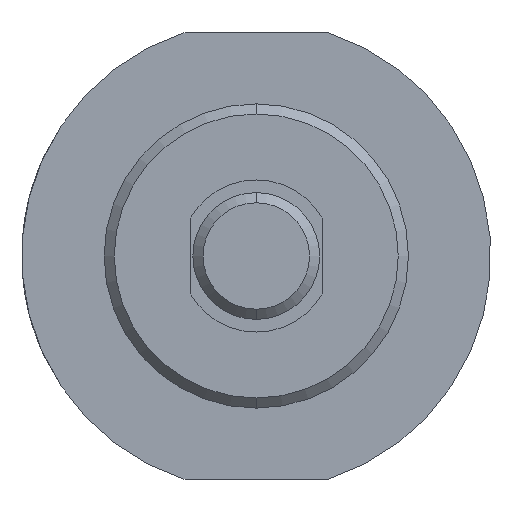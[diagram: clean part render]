
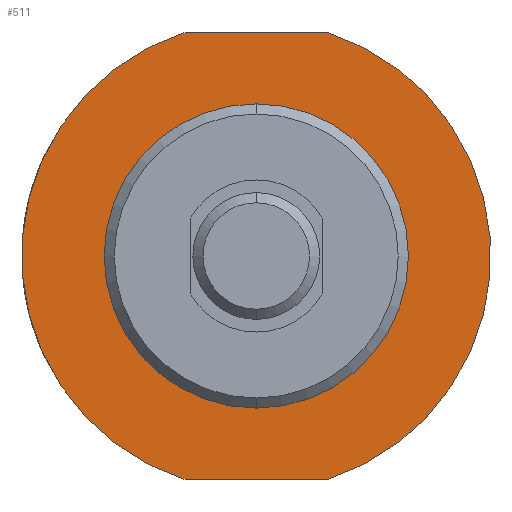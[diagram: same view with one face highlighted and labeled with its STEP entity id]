
A CAD part, left-side view. The second image highlights one B-rep face of the part: STEP entity #511.
In plain terms, the highlighted planar face has unit normal (-1, 0, 0).
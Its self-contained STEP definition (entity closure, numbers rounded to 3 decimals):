
#13 = CARTESIAN_POINT ( 'NONE',  ( 28., 6., 0. ) ) ;
#54 = ORIENTED_EDGE ( 'NONE', *, *, #574, .F. ) ;
#115 = DIRECTION ( 'NONE',  ( 0., 0., 1. ) ) ;
#133 = AXIS2_PLACEMENT_3D ( 'NONE', #13, #380, #1435 ) ;
#169 = ORIENTED_EDGE ( 'NONE', *, *, #1055, .F. ) ;
#180 = FACE_OUTER_BOUND ( 'NONE', #252, .T. ) ;
#243 = AXIS2_PLACEMENT_3D ( 'NONE', #1244, #977, #115 ) ;
#252 = EDGE_LOOP ( 'NONE', ( #655, #1450, #1391, #54 ) ) ;
#256 = CARTESIAN_POINT ( 'NONE',  ( 28., 0., 0. ) ) ;
#290 = DIRECTION ( 'NONE',  ( 0., 0., 1. ) ) ;
#319 = CARTESIAN_POINT ( 'NONE',  ( 28., -2.85, -8.8 ) ) ;
#356 = EDGE_CURVE ( 'NONE', #1226, #1364, #869, .T. ) ;
#380 = DIRECTION ( 'NONE',  ( 1., 0., 0. ) ) ;
#404 = CARTESIAN_POINT ( 'NONE',  ( 28., 2.85, -8.8 ) ) ;
#407 = CARTESIAN_POINT ( 'NONE',  ( 28., 2.85, -8.8 ) ) ;
#409 = ORIENTED_EDGE ( 'NONE', *, *, #759, .F. ) ;
#453 = CARTESIAN_POINT ( 'NONE',  ( 28., -2.85, 8.8 ) ) ;
#460 = DIRECTION ( 'NONE',  ( 0., 0., 1. ) ) ;
#511 = ADVANCED_FACE ( 'NONE', ( #1571, #180 ), #1236, .F. ) ;
#571 = LINE ( 'NONE', #404, #1128 ) ;
#574 = EDGE_CURVE ( 'NONE', #1243, #1422, #571, .T. ) ;
#581 = VERTEX_POINT ( 'NONE', #622 ) ;
#622 = CARTESIAN_POINT ( 'NONE',  ( 28., 0., -6. ) ) ;
#655 = ORIENTED_EDGE ( 'NONE', *, *, #1535, .T. ) ;
#759 = EDGE_CURVE ( 'NONE', #1115, #581, #1306, .T. ) ;
#778 = CIRCLE ( 'NONE', #1151, 6. ) ;
#813 = EDGE_CURVE ( 'NONE', #1226, #1422, #1577, .T. ) ;
#853 = VECTOR ( 'NONE', #1406, 1000. ) ;
#867 = DIRECTION ( 'NONE',  ( 0., 0., 1. ) ) ;
#869 = LINE ( 'NONE', #870, #853 ) ;
#870 = CARTESIAN_POINT ( 'NONE',  ( 28., 2.85, 8.8 ) ) ;
#977 = DIRECTION ( 'NONE',  ( -1., 0., 0. ) ) ;
#1053 = CARTESIAN_POINT ( 'NONE',  ( 28., 0., 0. ) ) ;
#1055 = EDGE_CURVE ( 'NONE', #581, #1115, #778, .T. ) ;
#1064 = CIRCLE ( 'NONE', #1181, 9.25 ) ;
#1115 = VERTEX_POINT ( 'NONE', #1400 ) ;
#1128 = VECTOR ( 'NONE', #1206, 1000. ) ;
#1140 = EDGE_LOOP ( 'NONE', ( #409, #169 ) ) ;
#1151 = AXIS2_PLACEMENT_3D ( 'NONE', #1280, #1462, #290 ) ;
#1181 = AXIS2_PLACEMENT_3D ( 'NONE', #256, #1590, #867 ) ;
#1206 = DIRECTION ( 'NONE',  ( 0., 1., 0. ) ) ;
#1226 = VERTEX_POINT ( 'NONE', #1560 ) ;
#1236 = PLANE ( 'NONE',  #133 ) ;
#1243 = VERTEX_POINT ( 'NONE', #319 ) ;
#1244 = CARTESIAN_POINT ( 'NONE',  ( 28., 0., 0. ) ) ;
#1280 = CARTESIAN_POINT ( 'NONE',  ( 28., 0., 0. ) ) ;
#1306 = CIRCLE ( 'NONE', #1333, 6. ) ;
#1333 = AXIS2_PLACEMENT_3D ( 'NONE', #1053, #1471, #460 ) ;
#1364 = VERTEX_POINT ( 'NONE', #453 ) ;
#1391 = ORIENTED_EDGE ( 'NONE', *, *, #813, .T. ) ;
#1400 = CARTESIAN_POINT ( 'NONE',  ( 28., 0., 6. ) ) ;
#1406 = DIRECTION ( 'NONE',  ( 0., -1., 0. ) ) ;
#1422 = VERTEX_POINT ( 'NONE', #407 ) ;
#1435 = DIRECTION ( 'NONE',  ( 0., 0., -1. ) ) ;
#1450 = ORIENTED_EDGE ( 'NONE', *, *, #356, .F. ) ;
#1462 = DIRECTION ( 'NONE',  ( -1., 0., 0. ) ) ;
#1471 = DIRECTION ( 'NONE',  ( -1., 0., 0. ) ) ;
#1535 = EDGE_CURVE ( 'NONE', #1243, #1364, #1064, .T. ) ;
#1560 = CARTESIAN_POINT ( 'NONE',  ( 28., 2.85, 8.8 ) ) ;
#1571 = FACE_BOUND ( 'NONE', #1140, .T. ) ;
#1577 = CIRCLE ( 'NONE', #243, 9.25 ) ;
#1590 = DIRECTION ( 'NONE',  ( -1., 0., 0. ) ) ;
